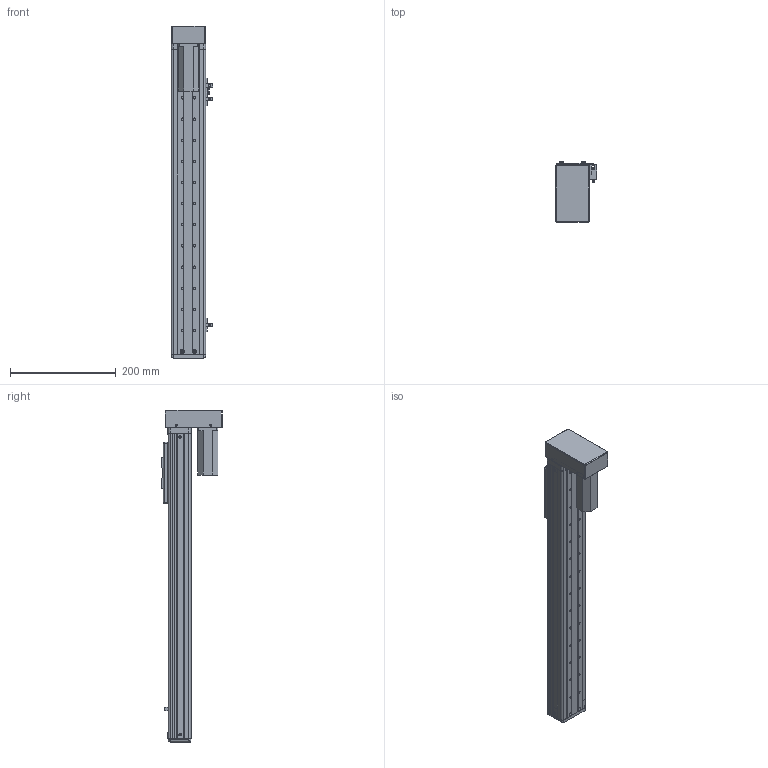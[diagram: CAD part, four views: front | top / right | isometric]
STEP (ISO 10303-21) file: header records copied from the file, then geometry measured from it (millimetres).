
FILE_DESCRIPTION (( 'STEP AP203' ), '1' );
FILE_NAME ('RY60F-L1210-300-BK.SLDASM_400.step', '2021-03-02T06:47:05', ( '盈信电脑' ), ( '东莞市道滘镇水果街19号' ), 'SwSTEP 2.0', 'SolidWorks 2012', '' );
FILE_SCHEMA (( 'CONFIG_CONTROL_DESIGN' ));
Length unit declared in the file: millimetre
Products named in the file (17): RY60F-狟殏萇儂欶(100W); RY60F-狟殏萇儂假蚾啣(100W PCD45 M3); RY60F-L1210-300-BK.SLDASM_400; 俋噤12酗29滅袉蝶; RY60F-转折电机端丝杆安装座; 侂狟100W; 俋噤12酗38滅袉蝶; 覜茼ん672; RY50F-300-MR15W蛌殏絳寢-BK_400; RY60F-300-蛌殏滅鳥詩え-BK_400; RY60F-L1210-300-BK蛌殏俋褲_400; RY50-60詩湍揤啣; RY60F-祥凄詩滅鳥裔; RY60F-嫖萇羲壽結え; RY60F-滅鳥詩え盓殤; RY60F-臏賑輸; RY60F-浮动端丝杆支撑座
Assembly tree (20 placements, depth 2):
  RY60F-L1210-300-BK.SLDASM_400
    RY60F-臏賑輸
    RY60F-浮动端丝杆支撑座
    RY60F-滅鳥詩え盓殤
    RY60F-嫖萇羲壽結え
    RY50-60詩湍揤啣  x2
    RY60F-祥凄詩滅鳥裔
    RY60F-L1210-300-BK蛌殏俋褲_400  x2
    覜茼ん672  x3
    RY60F-300-蛌殏滅鳥詩え-BK_400
    RY50F-300-MR15W蛌殏絳寢-BK_400
    俋噤12酗29滅袉蝶
    俋噤12酗38滅袉蝶
    侂狟100W
    RY60F-转折电机端丝杆安装座
    RY60F-狟殏萇儂假蚾啣(100W PCD45 M3)
    RY60F-狟殏萇儂欶(100W)
Bounding box: 78.7 x 114 x 628 mm (x, y, z)
Volume: 667932.3 mm3; surface area: 449753.2 mm2
Topology: 20 solids, 21 shells, 1057 faces, 2878 edges, 1823 vertices
Faces by surface type: cylinder 482, plane 463, cone 94, bspline 18
Entity records: 32266 total; most frequent: CARTESIAN_POINT 6242, DIRECTION 5125, ORIENTED_EDGE 4920, EDGE_CURVE 2460, AXIS2_PLACEMENT_3D 1826, VERTEX_POINT 1599, VECTOR 1473, LINE 1473
